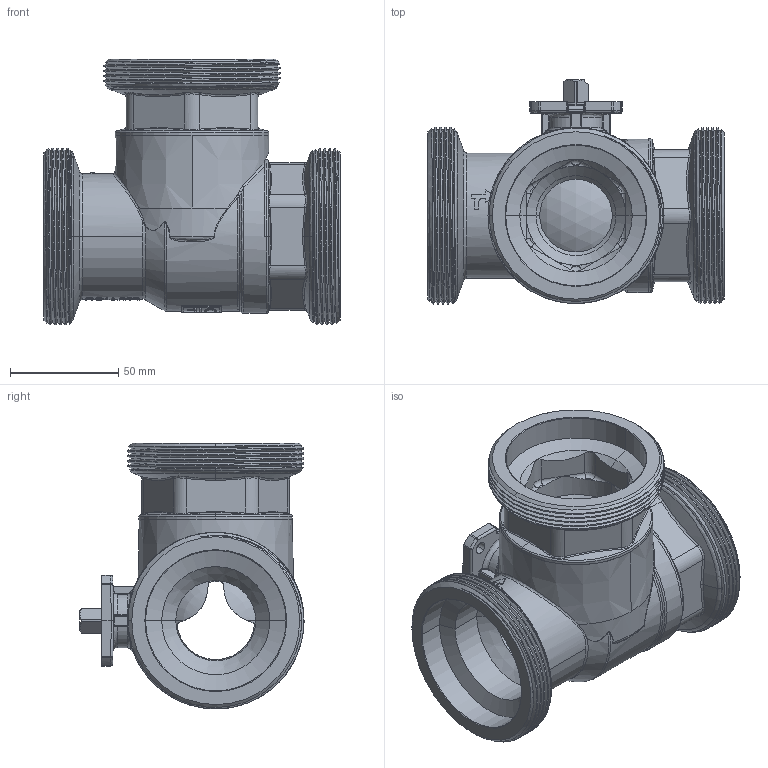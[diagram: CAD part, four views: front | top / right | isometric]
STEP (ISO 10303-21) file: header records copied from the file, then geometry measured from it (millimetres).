
FILE_DESCRIPTION((''),'2;1');
FILE_NAME('H988T1050_2314_SW0001','2015-05-08T',('61graziano'),('Vir spa'),'PRO/ENGINEER BY PARAMETRIC TECHNOLOGY CORPORATION, 2010280','PRO/ENGINEER BY PARAMETRIC TECHNOLOGY CORPORATION, 2010280','');
FILE_SCHEMA(('CONFIG_CONTROL_DESIGN'));
Products named in the file (1): H988T1050_2314_SW0001
Bounding box: 137 x 103.64 x 122.92 mm (x, y, z)
Volume: 354528.8 mm3; surface area: 131087.6 mm2
Topology: 1 solids, 2 shells, 1103 faces, 2731 edges, 1687 vertices
Faces by surface type: cylinder 308, plane 242, extrusion 181, bspline 180, cone 91, torus 86, sphere 15
Entity records: 50885 total; most frequent: CARTESIAN_POINT 26824, ORIENTED_EDGE 5462, DIRECTION 4193, EDGE_CURVE 2731, VERTEX_POINT 1687, AXIS2_PLACEMENT_3D 1551, B_SPLINE_CURVE_WITH_KNOTS 1193, EDGE_LOOP 1174
